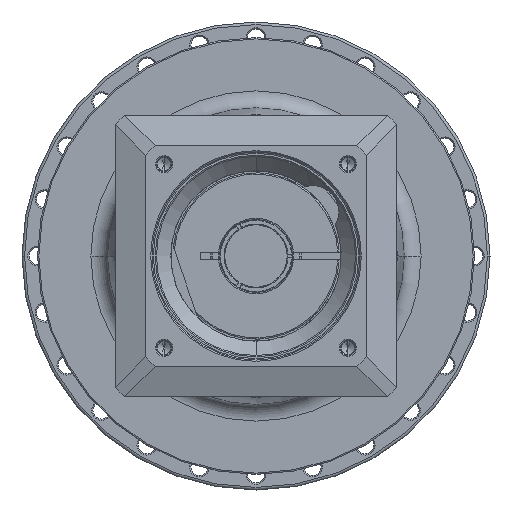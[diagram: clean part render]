
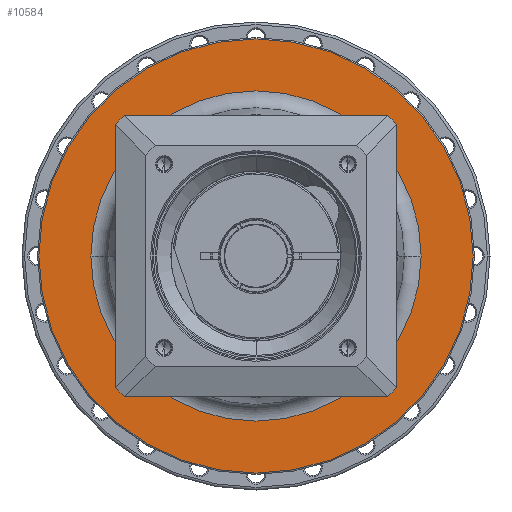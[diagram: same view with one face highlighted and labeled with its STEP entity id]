
A CAD part, left-side view. The second image highlights one B-rep face of the part: STEP entity #10584.
In plain terms, the highlighted planar face has unit normal (-1, 0, 0) as drawn and (1, 0, 0) by its records, which use the part's own axes.
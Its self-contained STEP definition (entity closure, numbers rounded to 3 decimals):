
#10124=CARTESIAN_POINT('',(-28.5,0.,0.));
#10125=DIRECTION('',(-1.,0.,0.));
#10126=DIRECTION('',(0.,1.,0.));
#10127=AXIS2_PLACEMENT_3D('',#10124,#10125,#10126);
#10134=CARTESIAN_POINT('',(-28.5,0.,0.));
#10135=DIRECTION('',(1.,0.,0.));
#10136=DIRECTION('',(0.,1.,0.));
#10137=AXIS2_PLACEMENT_3D('',#10134,#10135,#10136);
#10139=CARTESIAN_POINT('',(-28.5,0.,0.));
#10140=DIRECTION('',(-1.,0.,0.));
#10141=DIRECTION('',(0.,-1.,0.));
#10142=AXIS2_PLACEMENT_3D('',#10139,#10140,#10141);
#10144=CARTESIAN_POINT('',(-28.5,0.,0.));
#10145=DIRECTION('',(-1.,0.,0.));
#10146=DIRECTION('',(0.,1.,0.));
#10147=AXIS2_PLACEMENT_3D('',#10144,#10145,#10146);
#10269=CARTESIAN_POINT('',(-28.5,-83.5,0.));
#10270=CARTESIAN_POINT('',(-28.5,83.5,0.));
#10271=VERTEX_POINT('',#10269);
#10272=VERTEX_POINT('',#10270);
#10293=CARTESIAN_POINT('',(-28.5,63.5,0.));
#10295=VERTEX_POINT('',#10293);
#10297=CARTESIAN_POINT('',(-28.5,-63.5,0.));
#10299=VERTEX_POINT('',#10297);
#10569=CARTESIAN_POINT('',(-28.5,0.,0.));
#10570=DIRECTION('',(1.,0.,0.));
#10571=DIRECTION('',(0.,-1.,0.));
#10572=AXIS2_PLACEMENT_3D('',#10569,#10570,#10571);
#10573=PLANE('',#10572);
#10575=ORIENTED_EDGE('',*,*,#10574,.T.);
#10577=ORIENTED_EDGE('',*,*,#10576,.T.);
#10578=EDGE_LOOP('',(#10575,#10577));
#10579=FACE_OUTER_BOUND('',#10578,.F.);
#10580=ORIENTED_EDGE('',*,*,#10564,.T.);
#10581=ORIENTED_EDGE('',*,*,#10548,.F.);
#10582=EDGE_LOOP('',(#10580,#10581));
#10583=FACE_BOUND('',#10582,.F.);
#10584=ADVANCED_FACE('',(#10579,#10583),#10573,.T.);
#10128=CIRCLE('',#10127,63.5);
#10138=CIRCLE('',#10137,63.5);
#10143=CIRCLE('',#10142,83.5);
#10148=CIRCLE('',#10147,83.5);
#10548=EDGE_CURVE('',#10295,#10299,#10128,.T.);
#10564=EDGE_CURVE('',#10295,#10299,#10138,.T.);
#10574=EDGE_CURVE('',#10271,#10272,#10143,.T.);
#10576=EDGE_CURVE('',#10272,#10271,#10148,.T.);
